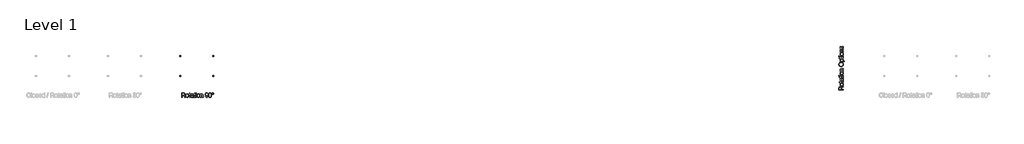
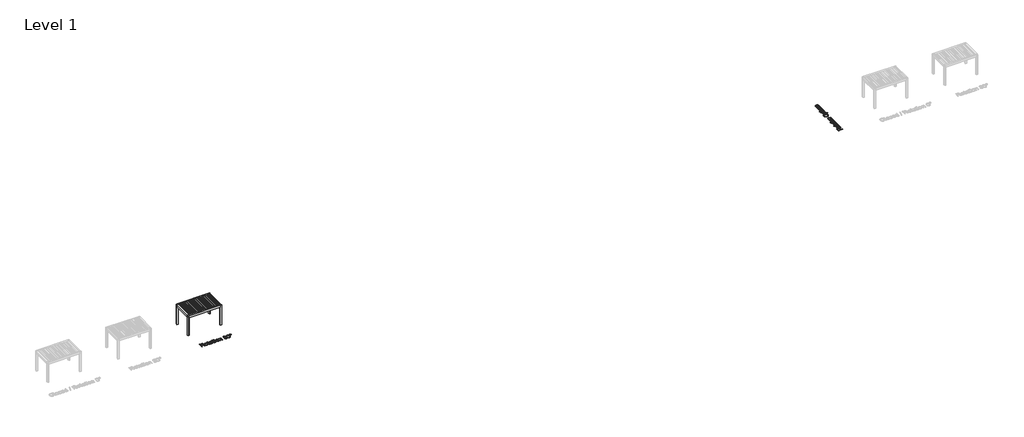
# One storey, part 50 of 69: 3 proxies.
"""IFC4 building model written with IfcOpenShell, lengths in millimetres."""

from ifc_helpers import new_model, si_unit, origin, origin_with_axes, place, context, project, spatial, polyline, outline, extrude, transform, mapped, element, save
from components import generic_models_b33c69de

model = new_model("IFC4")

# Units and contexts
model_context = context("Model", 3, world=origin())
ifc_project = project(units=[si_unit("LENGTHUNIT", "METRE", prefix="MILLI")], contexts=[model_context])

# Site, building, storey
site = spatial("IfcSite", under=ifc_project)
building = spatial("IfcBuilding", under=site)
storey = spatial("IfcBuildingStorey", under=building, Name="Level 1", Elevation=0.0)

# Proxies
placement = place(None, origin())
generic_models_shape = generic_models_b33c69de(model_context)
element("IfcBuildingElementProxy", 1, Name="Renson_Camargue_Freestanding_Patio covers : Renson_Camargue_Freestanding_Patio covers", ObjectType="Renson_Camargue_Freestanding_Patio covers : Renson_Camargue_Freestanding_Patio covers", at=placement, inside=storey, context=model_context, shape_type="MappedRepresentation", body=[
    mapped(generic_models_shape, transform((7503.165057, 67778.5861401, 0.0), x_axis=(1.0, 0.0, 0.0), y_axis=(0.0, 1.0, 0.0), z_axis=(0.0, 0.0, 1.0))),
])
element("IfcBuildingElementProxy", 2, Name="500mm Arial", ObjectType="500mm Arial", at=placement, inside=storey, context=model_context, shape_type="SweptSolid", body=[
    extrude(outline(polyline([(5745.311698, 64128.5861401), (5745.311698, 64630.8676909), (5961.7489385, 64630.8676909), (6019.920279, 64627.4801108), (6062.2420369, 64617.3173707), (6093.1747813, 64598.555389), (6117.1790815, 64569.370084), (6132.5841401, 64533.1796927), (6137.7191596, 64493.402452), (6135.5923418, 64467.6047271), (6129.2118884, 64443.9223237), (6118.5777995, 64422.3552417), (6103.690075, 64402.9034812), (6084.3571097, 64386.187843), (6060.3872985, 64372.8291281), (6031.7806413, 64362.8273364), (5998.5371381, 64356.1824678), (6019.2305003, 64342.6628045), (6034.2216916, 64329.3270822), (6085.1120343, 64264.7024784), (6168.8665018, 64128.5861401), (6095.9032394, 64128.5861401), (6030.5428716, 64232.6967448), (5983.3313489, 64301.6133052), (5965.7803121, 64321.7088592), (5950.1606557, 64334.1708618), (5920.3009004, 64346.1270266), (5883.8805829, 64348.3343186), (5808.0968919, 64348.3343186), (5808.0968919, 64128.5861401), (5745.311698, 64128.5861401)]), holes=[polyline([(5808.0968919, 64411.1195124), (5948.627814, 64411.1195124), (5988.9875346, 64413.3421328), (6020.3034894, 64420.009994), (6043.878594, 64431.56762), (6061.0157636, 64448.4595349), (6071.4544152, 64468.8923141), (6074.9339657, 64491.0725327), (6073.2746646, 64507.129049), (6068.2967614, 64521.6987088), (6060.000256, 64534.7815123), (6048.3851484, 64546.3774593), (6033.1831914, 64555.8734133), (6014.1261376, 64562.6562376), (5964.4467398, 64568.082497), (5808.0968919, 64568.082497), (5808.0968919, 64411.1195124)])]), origin_with_axes(), (0.0, 0.0, 1.0), 5.0),
    extrude(outline(polyline([(6224.0488011, 64313.0176471), (6227.4440453, 64360.788657), (6237.6297781, 64401.9531194), (6254.6059993, 64436.5110343), (6278.3727091, 64464.4624017), (6302.3003672, 64482.3276711), (6328.7112287, 64495.0885778), (6357.6052938, 64502.7451219), (6388.9825623, 64505.2973032), (6423.6209514, 64502.1894668), (6454.9407383, 64492.8659574), (6482.9419231, 64477.3267753), (6507.6245057, 64455.5719202), (6527.7698771, 64428.3371562), (6542.159428, 64396.3582474), (6550.7931586, 64359.6351936), (6553.6710688, 64318.167995), (6548.5820345, 64254.7390076), (6542.2207417, 64228.7036923), (6533.3149317, 64206.4544958), (6521.9757356, 64187.2364936), (6508.3142845, 64170.2947613), (6492.3305782, 64155.6292989), (6474.0246168, 64143.2401063), (6433.2970143, 64126.3635197), (6388.9825623, 64120.7379909), (6353.8383354, 64123.834331), (6322.2273086, 64133.1233514), (6294.1494817, 64148.605052), (6269.6048548, 64170.2794329), (6249.6740813, 64197.7786121), (6235.4378145, 64230.7347075), (6226.8960545, 64269.1477191), (6224.0488011, 64313.0176471)]), holes=[polyline([(6286.8339949, 64313.1402744), (6288.6504123, 64282.686543), (6294.0996644, 64256.3178345), (6303.1817511, 64234.0341491), (6315.8966726, 64215.8354867), (6331.3630448, 64201.6988546), (6348.6994838, 64191.6012602), (6367.9059896, 64185.5427036), (6388.9825623, 64183.5231847), (6409.951836, 64185.5541999), (6429.0816997, 64191.6472455), (6446.3721535, 64201.8023214), (6461.8231973, 64216.0194277), (6474.5381188, 64234.398199), (6483.6202055, 64257.0382701), (6489.0694576, 64283.939641), (6490.8858749, 64315.1023117), (6489.0579613, 64344.5903529), (6483.5742203, 64370.2692826), (6474.434652, 64392.1391007), (6461.6392563, 64410.1998074), (6446.130731, 64424.3364395), (6428.8517735, 64434.4340339), (6409.8023839, 64440.4925905), (6388.9825623, 64442.5121094), (6367.9059896, 64440.5002547), (6348.6994838, 64434.4646907), (6331.3630448, 64424.4054174), (6315.8966726, 64410.3224348), (6303.1817511, 64392.1774218), (6294.0996644, 64369.9320574), (6288.6504123, 64343.5863416), (6286.8339949, 64313.1402744)])]), origin_with_axes(), (0.0, 0.0, 1.0), 5.0),
    extrude(outline(polyline([(6757.7229488, 64180.9480108), (6765.571098, 64126.7467302), (6718.60483, 64120.7379909), (6688.4691632, 64123.3438217), (6665.9977046, 64131.1613141), (6650.1174652, 64143.2094494), (6639.7554557, 64158.5072091), (6634.0532847, 64184.7801149), (6632.1525611, 64229.7536888), (6632.1525611, 64434.6639601), (6585.0636657, 64434.6639601), (6585.0636657, 64497.449154), (6632.1525611, 64497.449154), (6632.1525611, 64587.0897335), (6694.9377549, 64624.0005603), (6694.9377549, 64497.449154), (6757.7229488, 64497.449154), (6757.7229488, 64434.6639601), (6694.9377549, 64434.6639601), (6694.9377549, 64231.5930988), (6698.2486929, 64199.2194832), (6708.9785844, 64187.7538277), (6730.3770538, 64183.5231847), (6757.7229488, 64180.9480108)])), origin_with_axes(), (0.0, 0.0, 1.0), 5.0),
    extrude(outline(polyline([(7055.9526195, 64175.6750355), (7025.9549085, 64149.9539527), (6995.0681493, 64133.1233514), (6962.5872348, 64123.834331), (6927.8070579, 64120.7379909), (6899.8518583, 64122.6003935), (6875.3378883, 64128.1876013), (6854.2651478, 64137.4996143), (6836.6336367, 64150.5364325), (6822.7116025, 64166.4703214), (6812.7672923, 64184.4735466), (6806.8007062, 64204.5461079), (6804.8118442, 64226.6880055), (6807.8162138, 64252.7156567), (6816.8293227, 64276.3520749), (6830.7321964, 64296.5855846), (6848.4058606, 64312.4045104), (6869.1758649, 64324.3606752), (6892.367759, 64333.0059021), (6946.691667, 64342.4482067), (7010.8870751, 64352.3810205), (7055.5847375, 64364.030617), (7055.9526195, 64378.0101329), (7051.6300061, 64406.0304782), (7038.6621658, 64424.3632643), (7025.5870265, 64432.303384), (7009.6608018, 64437.9748981), (6969.255096, 64442.5121094), (6931.8537598, 64439.4924113), (6905.7341382, 64430.4333172), (6887.9225182, 64413.679358), (6875.4451872, 64387.5750647), (6812.6599934, 64395.423214), (6823.5584975, 64429.7588669), (6839.8219474, 64456.7368798), (6862.9678562, 64477.3689284), (6894.5137373, 64492.666688), (6933.0953616, 64502.1396494), (6977.3484999, 64505.2973032), (7019.7928851, 64502.5075314), (7053.4387592, 64494.138216), (7078.8072885, 64481.5535861), (7096.419639, 64466.1178707), (7108.0998923, 64447.0339922), (7115.6721301, 64423.5048729), (7118.7378134, 64368.5678283), (7118.7378134, 64290.454218), (7121.926124, 64181.3772064), (7126.6472763, 64154.4145219), (7134.4341118, 64128.5861401), (7071.648918, 64128.5861401), (7061.5934768, 64150.4138052), (7055.9526195, 64175.6750355)]), holes=[polyline([(7055.9526195, 64301.2454232), (7013.7688174, 64290.7914432), (6954.6624435, 64281.9929321), (6900.6451039, 64271.8148636), (6886.588946, 64264.8557625), (6876.1809512, 64255.2601738), (6869.7430163, 64243.7638615), (6867.597038, 64231.1025895), (6872.272205, 64212.4325782), (6886.2977061, 64197.1348186), (6909.3669729, 64186.9260932), (6941.173437, 64183.5231847), (6974.8959533, 64187.2786468), (7004.6943949, 64198.5450329), (7028.8519792, 64215.1457079), (7045.6519237, 64234.9040367), (7053.1015341, 64255.2601738), (7055.5847375, 64283.4644601), (7055.9526195, 64301.2454232)])]), origin_with_axes(), (0.0, 0.0, 1.0), 5.0),
    extrude(outline(polyline([(7338.4859918, 64180.9480108), (7346.3341411, 64126.7467302), (7299.367873, 64120.7379909), (7269.2322062, 64123.3438217), (7246.7607477, 64131.1613141), (7230.8805082, 64143.2094494), (7220.5184987, 64158.5072091), (7214.8163278, 64184.7801149), (7212.9156041, 64229.7536888), (7212.9156041, 64434.6639601), (7165.8267088, 64434.6639601), (7165.8267088, 64497.449154), (7212.9156041, 64497.449154), (7212.9156041, 64587.0897335), (7275.700798, 64624.0005603), (7275.700798, 64497.449154), (7338.4859918, 64497.449154), (7338.4859918, 64434.6639601), (7275.700798, 64434.6639601), (7275.700798, 64231.5930988), (7279.0117359, 64199.2194832), (7289.7416275, 64187.7538277), (7311.1400968, 64183.5231847), (7338.4859918, 64180.9480108)])), origin_with_axes(), (0.0, 0.0, 1.0), 5.0),
    extrude(outline(polyline([(7401.2711857, 64568.082497), (7401.2711857, 64630.8676909), (7464.0563795, 64630.8676909), (7464.0563795, 64568.082497), (7401.2711857, 64568.082497)])), origin_with_axes(), (0.0, 0.0, 1.0), 5.0),
    extrude(outline(polyline([(7401.2711857, 64128.5861401), (7401.2711857, 64497.449154), (7464.0563795, 64497.449154), (7464.0563795, 64128.5861401), (7401.2711857, 64128.5861401)])), origin_with_axes(), (0.0, 0.0, 1.0), 5.0),
    extrude(outline(polyline([(7542.5378718, 64313.0176471), (7545.9331161, 64360.788657), (7556.1188488, 64401.9531194), (7573.09507, 64436.5110343), (7596.8617798, 64464.4624017), (7620.7894379, 64482.3276711), (7647.2002994, 64495.0885778), (7676.0943645, 64502.7451219), (7707.471633, 64505.2973032), (7742.1100221, 64502.1894668), (7773.429809, 64492.8659574), (7801.4309938, 64477.3267753), (7826.1135764, 64455.5719202), (7846.2589478, 64428.3371562), (7860.6484987, 64396.3582474), (7869.2822293, 64359.6351936), (7872.1601395, 64318.167995), (7867.0711052, 64254.7390076), (7860.7098124, 64228.7036923), (7851.8040024, 64206.4544958), (7840.4648063, 64187.2364936), (7826.8033552, 64170.2947613), (7810.8196489, 64155.6292989), (7792.5136875, 64143.2401063), (7751.786085, 64126.3635197), (7707.471633, 64120.7379909), (7672.3274061, 64123.834331), (7640.7163793, 64133.1233514), (7612.6385524, 64148.605052), (7588.0939256, 64170.2794329), (7568.163152, 64197.7786121), (7553.9268852, 64230.7347075), (7545.3851252, 64269.1477191), (7542.5378718, 64313.0176471)]), holes=[polyline([(7605.3230657, 64313.1402744), (7607.139483, 64282.686543), (7612.5887351, 64256.3178345), (7621.6708218, 64234.0341491), (7634.3857433, 64215.8354867), (7649.8521155, 64201.6988546), (7667.1885545, 64191.6012602), (7686.3950603, 64185.5427036), (7707.471633, 64183.5231847), (7728.4409067, 64185.5541999), (7747.5707705, 64191.6472455), (7764.8612242, 64201.8023214), (7780.312268, 64216.0194277), (7793.0271895, 64234.398199), (7802.1092762, 64257.0382701), (7807.5585283, 64283.939641), (7809.3749457, 64315.1023117), (7807.547032, 64344.5903529), (7802.063291, 64370.2692826), (7792.9237227, 64392.1391007), (7780.128327, 64410.1998074), (7764.6198017, 64424.3364395), (7747.3408442, 64434.4340339), (7728.2914547, 64440.4925905), (7707.471633, 64442.5121094), (7686.3950603, 64440.5002547), (7667.1885545, 64434.4646907), (7649.8521155, 64424.4054174), (7634.3857433, 64410.3224348), (7621.6708218, 64392.1774218), (7612.5887351, 64369.9320574), (7607.139483, 64343.5863416), (7605.3230657, 64313.1402744)])]), origin_with_axes(), (0.0, 0.0, 1.0), 5.0),
    extrude(outline(polyline([(7942.7934826, 64128.5861401), (7942.7934826, 64497.449154), (8005.5786764, 64497.449154), (8005.5786764, 64445.9456746), (8027.391013, 64471.9120121), (8053.5872768, 64490.4593961), (8084.1674676, 64501.5878264), (8119.1315856, 64505.2973032), (8150.0796584, 64502.308262), (8178.4219005, 64493.3411384), (8202.0583187, 64479.5149067), (8218.8889199, 64461.9485414), (8230.3085902, 64440.6880278), (8237.7122154, 64415.779351), (8241.0231533, 64355.0788218), (8241.0231533, 64128.5861401), (8178.2379595, 64128.5861401), (8178.2379595, 64346.6175359), (8176.4292063, 64379.083122), (8171.0029469, 64402.1677172), (8160.993491, 64418.7070786), (8145.4351482, 64431.5369632), (8125.4928784, 64439.7683228), (8102.3316411, 64442.5121094), (8083.2669232, 64440.9716035), (8065.55877, 64436.3500859), (8049.2071818, 64428.6475567), (8034.2121584, 64417.8640157), (8021.68501, 64402.7731897), (8012.7370469, 64382.1488053), (8007.368269, 64355.9908626), (8005.5786764, 64324.2993616), (8005.5786764, 64128.5861401), (7942.7934826, 64128.5861401)])), origin_with_axes(), (0.0, 0.0, 1.0), 5.0),
    extrude(outline(polyline([(8515.7083764, 64254.1565278), (8578.4935702, 64262.0046771), (8589.2234618, 64226.3661088), (8606.6978565, 64202.1012255), (8630.4875589, 64188.1676949), (8660.1633732, 64183.5231847), (8686.7888326, 64186.512226), (8710.9924022, 64195.4793496), (8731.1032846, 64209.443537), (8745.4506824, 64227.4237695), (8756.3185297, 64251.0601877), (8765.9907604, 64281.9929321), (8772.7965774, 64317.4935447), (8775.065183, 64354.8335672), (8774.697301, 64367.0963003), (8752.946278, 64340.547483), (8724.4814087, 64319.5168956), (8691.3567007, 64305.8132913), (8655.6261619, 64301.2454232), (8625.8008956, 64304.035195), (8598.3745264, 64312.4045104), (8573.3470544, 64326.3533694), (8550.7184796, 64345.881772), (8531.9679942, 64369.9703784), (8518.5747903, 64397.5998491), (8510.5388679, 64428.770184), (8507.8602272, 64463.4813831), (8510.6691595, 64499.3498776), (8519.0959564, 64531.5395522), (8533.140618, 64560.0504068), (8552.8031442, 64584.8824415), (8576.6963134, 64605.0009881), (8603.4329038, 64619.3713785), (8633.0129155, 64627.9936128), (8665.4363484, 64630.8676909), (8689.3755028, 64629.2275503), (8712.2646607, 64624.3071286), (8734.1038221, 64616.1064258), (8754.8929869, 64604.6254419), (8773.9385444, 64590.1094315), (8790.5468836, 64572.8036493), (8804.7180046, 64552.7080953), (8816.4519074, 64529.8227695), (8825.6527894, 64502.8294281), (8832.224848, 64470.4098273), (8837.4824948, 64389.2918474), (8832.2401764, 64303.2841026), (8825.6872784, 64267.6033812), (8816.5132211, 64236.8047604), (8804.7524936, 64210.1371478), (8790.4395847, 64186.8494511), (8773.5744945, 64166.9416702), (8754.1572229, 64150.4138052), (8732.5786447, 64137.4306364), (8709.2296343, 64128.1569445), (8684.1101918, 64122.5927293), (8657.2203172, 64120.7379909), (8629.0236951, 64122.9261224), (8603.5402027, 64129.4905167), (8580.7698401, 64140.431174), (8560.7126071, 64155.7480941), (8543.8743416, 64175.0274099), (8530.7608814, 64197.8552541), (8521.3722263, 64224.2316268), (8515.7083764, 64254.1565278)]), holes=[polyline([(8774.697301, 64464.9529111), (8773.003511, 64487.4550264), (8767.9221409, 64507.5045952), (8759.4531908, 64525.1016173), (8747.5966607, 64540.2460927), (8732.9350303, 64552.4245196), (8716.0507796, 64561.123396), (8696.9439085, 64566.3427218), (8675.614417, 64568.082497), (8653.6028109, 64566.2085981), (8633.6758695, 64560.5869014), (8615.8335927, 64551.2174068), (8600.0759806, 64538.1001144), (8587.2001108, 64522.001445), (8578.0030609, 64503.6878195), (8572.484831, 64483.1592377), (8570.645421, 64460.4156998), (8572.3851963, 64440.0174096), (8577.6045221, 64421.6194777), (8586.3033984, 64405.2219042), (8598.4818253, 64390.824689), (8613.633965, 64379.1022825), (8631.2539797, 64370.729135), (8651.3418695, 64365.7052465), (8673.8976343, 64364.030617), (8694.9320538, 64365.7052465), (8714.0121002, 64370.729135), (8731.1377735, 64379.1022825), (8746.3090737, 64390.824689), (8758.7289231, 64405.5054799), (8767.6002442, 64422.7537805), (8772.9230368, 64442.5695909), (8774.697301, 64464.9529111)])]), origin_with_axes(), (0.0, 0.0, 1.0), 5.0),
    extrude(outline(polyline([(8892.4195395, 64375.6802136), (8897.0333928, 64456.0777579), (8910.8749529, 64520.196524), (8921.221634, 64546.3966198), (8933.8062639, 64569.0175304), (8948.6288426, 64588.0592558), (8965.6893702, 64603.5217959), (8985.045328, 64615.485625), (9006.7541979, 64624.0312171), (9030.8159796, 64629.1585724), (9057.2306733, 64630.8676909), (9095.9195964, 64626.8209889), (9130.5618177, 64614.6808831), (9159.5325248, 64594.9225543), (9181.2069057, 64568.0211834), (9197.5776545, 64534.2066967), (9210.6374653, 64493.7090203), (9219.1907217, 64442.2821831), (9222.0418071, 64375.6802136), (9217.473939, 64295.7425217), (9203.7703347, 64231.7770398), (9193.5041278, 64205.5654476), (9180.9769794, 64182.9100481), (9166.1888896, 64163.8108412), (9149.1398584, 64148.2678269), (9129.7609079, 64136.2235236), (9107.9830602, 64127.6204499), (9083.8063153, 64122.4586057), (9057.2306733, 64120.7379909), (9022.6497657, 64123.7270321), (8991.9929328, 64132.6941557), (8965.2601745, 64147.6393618), (8942.4514908, 64168.5626503), (8920.5625121, 64206.3855179), (8904.9275273, 64253.5127343), (8895.5465364, 64309.9442995), (8892.4195395, 64375.6802136)]), holes=[polyline([(8955.2047333, 64375.8028409), (8957.0441433, 64321.222182), (8962.5623732, 64277.0418536), (8971.7594231, 64243.2618558), (8984.6352929, 64219.8821886), (9000.208964, 64203.9751244), (9017.4994178, 64192.6129357), (9036.5066542, 64185.7956225), (9057.2306733, 64183.5231847), (9077.9546924, 64185.8032867), (9096.9619288, 64192.6435925), (9114.2523825, 64204.0441023), (9129.8260537, 64220.0048159), (9142.7019235, 64243.4228042), (9151.8989734, 64277.1951378), (9157.4172033, 64321.3218167), (9159.2566133, 64375.8028409), (9157.478517, 64428.9387966), (9152.144228, 64472.3412078), (9143.2537465, 64506.0100746), (9130.8070723, 64529.9453969), (9115.4939843, 64546.6303782), (9098.0042611, 64558.548222), (9078.3379028, 64565.6989283), (9056.4949093, 64568.082497), (9035.8781892, 64565.982504), (9017.1928495, 64559.6825248), (9000.4388903, 64549.1825595), (8985.6163116, 64534.4826081), (8972.3112461, 64508.4243002), (8962.8076279, 64473.2915696), (8957.1054569, 64429.0844165), (8955.2047333, 64375.8028409)])]), origin_with_axes(), (0.0, 0.0, 1.0), 5.0),
    extrude(outline(polyline([(9292.6751502, 64544.6606767), (9294.4034292, 64563.4916363), (9299.588266, 64580.8663964), (9308.2296608, 64596.7849569), (9320.3276135, 64611.2473178), (9334.847456, 64623.2647963), (9350.7545202, 64631.8487095), (9368.0488061, 64636.9990575), (9386.7303136, 64638.7158401), (9405.6685722, 64636.9990575), (9423.1199743, 64631.8487095), (9439.0845201, 64623.2647963), (9453.5622094, 64611.2473178), (9465.5796879, 64596.7849569), (9474.1636012, 64580.8663964), (9479.3139491, 64563.4916363), (9481.0307317, 64544.6606767), (9479.3024528, 64525.8718702), (9474.1176159, 64508.5009422), (9465.4762211, 64492.5478928), (9453.3782684, 64478.0127219), (9438.8430975, 64465.9147692), (9422.8900481, 64457.2733744), (9405.5191201, 64452.0885375), (9386.7303136, 64450.3602586), (9368.0488061, 64452.0770412), (9350.7545202, 64457.2273892), (9334.847456, 64465.8113024), (9320.3276135, 64477.8287809), (9308.2296608, 64492.3064702), (9299.588266, 64508.271016), (9294.4034292, 64525.7224181), (9292.6751502, 64544.6606767)]), holes=[polyline([(9331.9158964, 64544.5380493), (9335.9472699, 64523.4154915), (9348.0413905, 64505.6651852), (9365.837682, 64493.6170498), (9386.9755683, 64489.6010047), (9407.9295136, 64493.6170498), (9425.6644915, 64505.6651852), (9437.7586121, 64523.4154915), (9441.7899856, 64544.5380493), (9437.7586121, 64565.6606072), (9425.6644915, 64583.4109135), (9407.9295136, 64595.4590488), (9386.9755683, 64599.475094), (9365.837682, 64595.4590488), (9348.0413905, 64583.4109135), (9335.9472699, 64565.6606072), (9331.9158964, 64544.5380493)])]), origin_with_axes(), (0.0, 0.0, 1.0), 5.0),
])
element("IfcBuildingElementProxy", 3, Name="500mm Arial", ObjectType="500mm Arial", at=placement, inside=storey, context=model_context, shape_type="SweptSolid", body=[
    extrude(outline(polyline([(82842.6220496, 64966.2932218), (82340.3404988, 64966.2932218), (82340.3404988, 65182.7304623), (82343.7280789, 65240.9018028), (82353.890819, 65283.2235606), (82372.6528007, 65314.156305), (82401.8381057, 65338.1606052), (82438.028497, 65353.5656638), (82477.8057377, 65358.7006833), (82503.6034626, 65356.5738655), (82527.285866, 65350.1934122), (82548.852948, 65339.5593232), (82568.3047085, 65324.6715987), (82585.0203467, 65305.3386335), (82598.3790616, 65281.3688222), (82608.3808534, 65252.762165), (82615.0257219, 65219.5186618), (82628.5453852, 65240.212024), (82641.8811075, 65255.2032153), (82706.5057114, 65306.093558), (82842.6220496, 65389.8480256), (82842.6220496, 65316.8847632), (82738.5114449, 65251.5243954), (82669.5948845, 65204.3128727), (82649.4993305, 65186.7618358), (82637.0373279, 65171.1421794), (82625.0811631, 65141.2824241), (82622.8738711, 65104.8621066), (82622.8738711, 65029.0784156), (82842.6220496, 65029.0784156), (82842.6220496, 64966.2932218)]), holes=[polyline([(82560.0886773, 65029.0784156), (82560.0886773, 65169.6093378), (82557.8660569, 65209.9690583), (82551.1981957, 65241.2850132), (82539.6405697, 65264.8601177), (82522.7486548, 65281.9972873), (82502.3158756, 65292.4359389), (82480.135657, 65295.9154895), (82464.0791407, 65294.2561884), (82449.5094809, 65289.2782851), (82436.4266774, 65280.9817797), (82424.8307304, 65269.3666721), (82415.3347764, 65254.1647151), (82408.5519521, 65235.1076613), (82403.1256927, 65185.4282636), (82403.1256927, 65029.0784156), (82560.0886773, 65029.0784156)])]), origin_with_axes(), (0.0, 0.0, 1.0), 5.0),
    extrude(outline(polyline([(82658.1905427, 65445.0303248), (82610.4195327, 65448.4255691), (82569.2550703, 65458.6113018), (82534.6971554, 65475.5875231), (82506.745788, 65499.3542328), (82488.8805186, 65523.2818909), (82476.1196119, 65549.6927525), (82468.4630679, 65578.5868175), (82465.9108865, 65609.964086), (82469.0187229, 65644.6024751), (82478.3422323, 65675.9222621), (82493.8814145, 65703.9234468), (82515.6362695, 65728.6060294), (82542.8710335, 65748.7514008), (82574.8499423, 65763.1409517), (82611.5729961, 65771.7746823), (82653.0401947, 65774.6525925), (82716.4691821, 65769.5635582), (82742.5044974, 65763.2022654), (82764.7536939, 65754.2964554), (82783.9716961, 65742.9572594), (82800.9134284, 65729.2958082), (82815.5788908, 65713.3121019), (82827.9680834, 65695.0061406), (82844.84467, 65654.278538), (82850.4701988, 65609.964086), (82847.3738587, 65574.8198591), (82838.0848383, 65543.2088323), (82822.6031377, 65515.1310054), (82800.9287568, 65490.5863786), (82773.4295776, 65470.6556051), (82740.4734822, 65456.4193383), (82702.0604706, 65447.8775782), (82658.1905427, 65445.0303248)]), holes=[polyline([(82658.0679153, 65507.8155187), (82688.5216467, 65509.631936), (82714.8903552, 65515.0811881), (82737.1740406, 65524.1632748), (82755.372703, 65536.8781963), (82769.5093351, 65552.3445685), (82779.6069295, 65569.6810075), (82785.6654861, 65588.8875134), (82787.685005, 65609.964086), (82785.6539898, 65630.9333597), (82779.5609442, 65650.0632235), (82769.4058683, 65667.3536772), (82755.1887621, 65682.804721), (82736.8099907, 65695.5196425), (82714.1699196, 65704.6017293), (82687.2685487, 65710.0509813), (82656.105878, 65711.8673987), (82626.6178368, 65710.039485), (82600.9389072, 65704.555744), (82579.069089, 65695.4161757), (82561.0083823, 65682.62078), (82546.8717502, 65667.1122547), (82536.7741558, 65649.8332972), (82530.7155992, 65630.7839077), (82528.6960804, 65609.964086), (82530.707935, 65588.8875134), (82536.743499, 65569.6810075), (82546.8027723, 65552.3445685), (82560.8857549, 65536.8781963), (82579.0307679, 65524.1632748), (82601.2761323, 65515.0811881), (82627.6218481, 65509.631936), (82658.0679153, 65507.8155187)])]), origin_with_axes(), (0.0, 0.0, 1.0), 5.0),
    extrude(outline(polyline([(82790.2601789, 65978.7044725), (82844.4614595, 65986.5526217), (82850.4701988, 65939.5863537), (82847.864368, 65909.4506869), (82840.0468756, 65886.9792284), (82827.9987403, 65871.0989889), (82812.7009806, 65860.7369794), (82786.4280748, 65855.0348085), (82741.4545009, 65853.1340848), (82536.5442296, 65853.1340848), (82536.5442296, 65806.0451894), (82473.7590357, 65806.0451894), (82473.7590357, 65853.1340848), (82384.1184563, 65853.1340848), (82347.2076294, 65915.9192787), (82473.7590357, 65915.9192787), (82473.7590357, 65978.7044725), (82536.5442296, 65978.7044725), (82536.5442296, 65915.9192787), (82739.6150909, 65915.9192787), (82771.9887065, 65919.2302166), (82783.454362, 65929.9601081), (82787.685005, 65951.3585775), (82790.2601789, 65978.7044725)])), origin_with_axes(), (0.0, 0.0, 1.0), 5.0),
    extrude(outline(polyline([(82795.5331542, 66276.9341433), (82821.254237, 66246.9364322), (82838.0848383, 66216.0496731), (82847.3738587, 66183.5687586), (82850.4701988, 66148.7885816), (82848.6077962, 66120.8333821), (82843.0205884, 66096.319412), (82833.7085754, 66075.2466715), (82820.6717572, 66057.6151605), (82804.7378683, 66043.6931262), (82786.7346431, 66033.748816), (82766.6620818, 66027.7822299), (82744.5201842, 66025.7933679), (82718.492533, 66028.7977375), (82694.8561148, 66037.8108464), (82674.6226051, 66051.7137201), (82658.8036793, 66069.3873843), (82646.8475145, 66090.1573886), (82638.2022876, 66113.3492827), (82628.759983, 66167.6731907), (82618.8271692, 66231.8685988), (82607.1775727, 66276.5662613), (82593.1980568, 66276.9341433), (82565.1777115, 66272.6115298), (82546.8449254, 66259.6436895), (82538.9048057, 66246.5685502), (82533.2332916, 66230.6423255), (82528.6960804, 66190.2366197), (82531.7157784, 66152.8352836), (82540.7748725, 66126.7156619), (82557.5288317, 66108.904042), (82583.633125, 66096.426711), (82575.7849757, 66033.6415171), (82541.4493229, 66044.5400212), (82514.4713099, 66060.8034711), (82493.8392613, 66083.94938), (82478.5415017, 66115.495261), (82469.0685403, 66154.0768853), (82465.9108865, 66198.3300236), (82468.7006583, 66240.7744088), (82477.0699737, 66274.420283), (82489.6546036, 66299.7888122), (82505.090319, 66317.4011627), (82524.1741975, 66329.0814161), (82547.7033168, 66336.6536538), (82602.6403614, 66339.7193371), (82680.7539717, 66339.7193371), (82789.8309833, 66342.9076477), (82816.7936678, 66347.6288), (82842.6220496, 66355.4156356), (82842.6220496, 66292.6304417), (82820.7943845, 66282.5750005), (82795.5331542, 66276.9341433)]), holes=[polyline([(82669.9627665, 66276.9341433), (82680.4167465, 66234.7503411), (82689.2152576, 66175.6439673), (82699.3933261, 66121.6266276), (82706.3524272, 66107.5704697), (82715.9480159, 66097.1624749), (82727.4443282, 66090.72454), (82740.1056002, 66088.5785617), (82758.7756115, 66093.2537287), (82774.0733711, 66107.2792298), (82784.2820965, 66130.3484966), (82787.685005, 66162.1549608), (82783.9295429, 66195.877477), (82772.6631568, 66225.6759186), (82756.0624818, 66249.8335029), (82736.304153, 66266.6334474), (82715.9480159, 66274.0830578), (82687.7437296, 66276.5662613), (82669.9627665, 66276.9341433)])]), origin_with_axes(), (0.0, 0.0, 1.0), 5.0),
    extrude(outline(polyline([(82790.2601789, 66559.4675156), (82844.4614595, 66567.3156648), (82850.4701988, 66520.3493967), (82847.864368, 66490.21373), (82840.0468756, 66467.7422714), (82827.9987403, 66451.862032), (82812.7009806, 66441.5000224), (82786.4280748, 66435.7978515), (82741.4545009, 66433.8971279), (82536.5442296, 66433.8971279), (82536.5442296, 66386.8082325), (82473.7590357, 66386.8082325), (82473.7590357, 66433.8971279), (82384.1184563, 66433.8971279), (82347.2076294, 66496.6823217), (82473.7590357, 66496.6823217), (82473.7590357, 66559.4675156), (82536.5442296, 66559.4675156), (82536.5442296, 66496.6823217), (82739.6150909, 66496.6823217), (82771.9887065, 66499.9932597), (82783.454362, 66510.7231512), (82787.685005, 66532.1216206), (82790.2601789, 66559.4675156)])), origin_with_axes(), (0.0, 0.0, 1.0), 5.0),
    extrude(outline(polyline([(82403.1256927, 66622.2527094), (82340.3404988, 66622.2527094), (82340.3404988, 66685.0379032), (82403.1256927, 66685.0379032), (82403.1256927, 66622.2527094)])), origin_with_axes(), (0.0, 0.0, 1.0), 5.0),
    extrude(outline(polyline([(82842.6220496, 66622.2527094), (82473.7590357, 66622.2527094), (82473.7590357, 66685.0379032), (82842.6220496, 66685.0379032), (82842.6220496, 66622.2527094)])), origin_with_axes(), (0.0, 0.0, 1.0), 5.0),
    extrude(outline(polyline([(82658.1905427, 66763.5193955), (82610.4195327, 66766.9146398), (82569.2550703, 66777.1003725), (82534.6971554, 66794.0765938), (82506.745788, 66817.8433035), (82488.8805186, 66841.7709616), (82476.1196119, 66868.1818232), (82468.4630679, 66897.0758882), (82465.9108865, 66928.4531567), (82469.0187229, 66963.0915458), (82478.3422323, 66994.4113328), (82493.8814145, 67022.4125175), (82515.6362695, 67047.0951002), (82542.8710335, 67067.2404715), (82574.8499423, 67081.6300225), (82611.5729961, 67090.263753), (82653.0401947, 67093.1416632), (82716.4691821, 67088.052629), (82742.5044974, 67081.6913361), (82764.7536939, 67072.7855262), (82783.9716961, 67061.4463301), (82800.9134284, 67047.7848789), (82815.5788908, 67031.8011726), (82827.9680834, 67013.4952113), (82844.84467, 66972.7676087), (82850.4701988, 66928.4531567), (82847.3738587, 66893.3089299), (82838.0848383, 66861.697903), (82822.6031377, 66833.6200761), (82800.9287568, 66809.0754493), (82773.4295776, 66789.1446758), (82740.4734822, 66774.908409), (82702.0604706, 66766.3666489), (82658.1905427, 66763.5193955)]), holes=[polyline([(82658.0679153, 66826.3045894), (82688.5216467, 66828.1210067), (82714.8903552, 66833.5702588), (82737.1740406, 66842.6523455), (82755.372703, 66855.367267), (82769.5093351, 66870.8336392), (82779.6069295, 66888.1700782), (82785.6654861, 66907.3765841), (82787.685005, 66928.4531567), (82785.6539898, 66949.4224304), (82779.5609442, 66968.5522942), (82769.4058683, 66985.842748), (82755.1887621, 67001.2937918), (82736.8099907, 67014.0087132), (82714.1699196, 67023.0908), (82687.2685487, 67028.540052), (82656.105878, 67030.3564694), (82626.6178368, 67028.5285557), (82600.9389072, 67023.0448147), (82579.069089, 67013.9052464), (82561.0083823, 67001.1098508), (82546.8717502, 66985.6013254), (82536.7741558, 66968.3223679), (82530.7155992, 66949.2729784), (82528.6960804, 66928.4531567), (82530.707935, 66907.3765841), (82536.743499, 66888.1700782), (82546.8027723, 66870.8336392), (82560.8857549, 66855.367267), (82579.0307679, 66842.6523455), (82601.2761323, 66833.5702588), (82627.6218481, 66828.1210067), (82658.0679153, 66826.3045894)])]), origin_with_axes(), (0.0, 0.0, 1.0), 5.0),
    extrude(outline(polyline([(82842.6220496, 67163.7750063), (82473.7590357, 67163.7750063), (82473.7590357, 67226.5602001), (82525.2625151, 67226.5602001), (82499.2961776, 67248.3725368), (82480.7487936, 67274.5688005), (82469.6203633, 67305.1489914), (82465.9108865, 67340.1131093), (82468.8999277, 67371.0611822), (82477.8670514, 67399.4034242), (82491.693283, 67423.0398424), (82509.2596483, 67439.8704437), (82530.5201619, 67451.2901139), (82555.4288387, 67458.6937391), (82616.1293679, 67462.0046771), (82842.6220496, 67462.0046771), (82842.6220496, 67399.2194832), (82624.5906538, 67399.2194832), (82592.1250677, 67397.4107301), (82569.0404725, 67391.9844706), (82552.5011111, 67381.9750147), (82539.6712265, 67366.416672), (82531.4398669, 67346.4744022), (82528.6960804, 67323.3131649), (82530.2365862, 67304.2484469), (82534.8581038, 67286.5402938), (82542.560633, 67270.1887055), (82553.344174, 67255.1936821), (82568.435, 67242.6665337), (82589.0593844, 67233.7185706), (82615.2173271, 67228.3497928), (82646.9088281, 67226.5602001), (82842.6220496, 67226.5602001), (82842.6220496, 67163.7750063)])), origin_with_axes(), (0.0, 0.0, 1.0), 5.0),
    extrude(outline(polyline([(82598.1031501, 67728.8417509), (82539.1883814, 67733.0264086), (82487.0334444, 67745.5803817), (82441.638339, 67766.5036701), (82403.0030653, 67795.796274), (82372.1546272, 67831.7030896), (82350.1200285, 67872.4690132), (82336.8992693, 67918.0940448), (82332.4923496, 67968.5781844), (82334.5616858, 68002.3696785), (82340.7696945, 68034.4597184), (82351.1163756, 68064.848304), (82365.6017292, 68093.5354354), (82383.7888953, 68119.7163708), (82405.2410141, 68142.5863681), (82429.9580857, 68162.1454275), (82457.9401099, 68178.393549), (82488.5509576, 68191.1621199), (82521.1544995, 68200.2825277), (82555.7507354, 68205.7547724), (82592.3396655, 68207.5788539), (82629.4114407, 68205.6589698), (82664.4751934, 68199.8993173), (82697.5309235, 68190.2998965), (82728.5786311, 68176.8607073), (82756.7982458, 68159.8998145), (82781.3696974, 68139.7352827), (82802.2929859, 68116.3671118), (82819.5681112, 68089.7953018), (82833.0877745, 68061.0660173), (82842.7446769, 68031.2254225), (82848.5388183, 68000.2735176), (82850.4701988, 67968.2103024), (82848.3357168, 67933.8286643), (82841.9322708, 67901.317093), (82831.2598609, 67870.6755884), (82816.3184869, 67841.9041507), (82797.6867967, 67815.7538722), (82775.9434379, 67792.9758454), (82751.0884106, 67773.5700701), (82723.1217148, 67757.5365465), (82693.1661569, 67744.9825734), (82662.3445435, 67736.0154498), (82630.6568746, 67730.6351756), (82598.1031501, 67728.8417509)]), holes=[polyline([(82598.7162868, 67791.6269447), (82640.3406017, 67794.765438), (82677.2897496, 67804.1809178), (82709.5637304, 67819.8733842), (82737.1625443, 67841.8428371), (82759.2661208, 67868.5487707), (82775.0543898, 67898.4506791), (82784.5273512, 67931.5485623), (82787.685005, 67967.8424204), (82784.4966943, 68004.7570794), (82774.9317625, 68038.2458372), (82758.9902093, 68068.308694), (82736.672035, 68094.9456498), (82708.4907413, 68116.7541543), (82674.9598303, 68132.3316575), (82636.0793019, 68141.6781595), (82591.8491562, 68144.7936601), (82536.2683181, 68139.4593712), (82488.2290609, 68123.4565044), (82467.3402613, 68111.5578211), (82448.9423295, 68097.198927), (82433.0352653, 68080.379822), (82419.6190688, 68061.1005062), (82408.9696514, 68039.9587878), (82401.3629248, 68017.552475), (82396.7988888, 67993.8815679), (82395.2775434, 67968.9460664), (82398.2091031, 67933.9129706), (82407.003782, 67901.4090635), (82421.6615803, 67871.4343451), (82442.1824978, 67843.9888154), (82469.5552175, 67821.080497), (82504.7684223, 67804.7174124), (82547.822112, 67794.8995616), (82598.7162868, 67791.6269447)])]), origin_with_axes(), (0.0, 0.0, 1.0), 5.0),
    extrude(outline(polyline([(82983.8887357, 68286.0603462), (82473.7590357, 68286.0603462), (82473.7590357, 68348.8455401), (82535.3179563, 68348.8455401), (82504.9523632, 68369.3243045), (82483.262654, 68392.2556155), (82470.2488284, 68418.9883738), (82465.9108865, 68450.8714801), (82467.4283997, 68472.768123), (82471.9809394, 68493.3311937), (82479.5685056, 68512.5606922), (82490.1910982, 68530.4566184), (82503.5728058, 68546.6280977), (82519.4377168, 68560.6842556), (82558.6171493, 68582.450607), (82604.8783102, 68595.6023884), (82655.370114, 68599.9863155), (82709.0655569, 68595.0352369), (82757.0894857, 68580.1820014), (82778.3653277, 68569.16087), (82797.0046822, 68555.9017897), (82813.007549, 68540.4047607), (82826.3739281, 68522.6697828), (82844.4461311, 68483.9655312), (82850.4701988, 68443.2685855), (82846.4388253, 68414.4051773), (82834.3447047, 68388.6381092), (82816.0885607, 68366.5805179), (82793.5711169, 68348.8455401), (82983.8887357, 68348.8455401), (82983.8887357, 68286.0603462)]), holes=[polyline([(82661.1335986, 68348.8455401), (82691.3918927, 68350.5431622), (82717.4195439, 68355.6360286), (82739.2165521, 68364.1241392), (82756.7829174, 68376.0074941), (82770.3025807, 68390.3127387), (82779.9594831, 68406.0665188), (82785.7536245, 68423.2688341), (82787.685005, 68441.9196849), (82785.6846466, 68460.8387829), (82779.6835716, 68478.3553308), (82769.6817798, 68494.4693286), (82755.6792714, 68509.1807763), (82737.4767768, 68521.4396774), (82714.8750267, 68530.1960353), (82687.8740211, 68535.44985), (82656.47376, 68537.2011216), (82626.476049, 68535.4920032), (82600.4943831, 68530.3646479), (82578.5287623, 68521.8190557), (82560.5791866, 68509.8552266), (82546.6303276, 68495.515493), (82536.6668569, 68479.8421872), (82530.6887745, 68462.8353091), (82528.6960804, 68444.4948588), (82530.8152339, 68426.2118901), (82537.1726947, 68409.0095747), (82547.7684625, 68392.8879127), (82562.6025376, 68377.846904), (82581.4756504, 68365.1588073), (82604.1885314, 68356.0958811), (82630.7411809, 68350.6581253), (82661.1335986, 68348.8455401)])]), origin_with_axes(), (0.0, 0.0, 1.0), 5.0),
    extrude(outline(polyline([(82790.2601789, 68804.0381955), (82844.4614595, 68811.8863447), (82850.4701988, 68764.9200766), (82847.864368, 68734.7844099), (82840.0468756, 68712.3129513), (82827.9987403, 68696.4327119), (82812.7009806, 68686.0707023), (82786.4280748, 68680.3685314), (82741.4545009, 68678.4678078), (82536.5442296, 68678.4678078), (82536.5442296, 68631.3789124), (82473.7590357, 68631.3789124), (82473.7590357, 68678.4678078), (82384.1184563, 68678.4678078), (82347.2076294, 68741.2530016), (82473.7590357, 68741.2530016), (82473.7590357, 68804.0381955), (82536.5442296, 68804.0381955), (82536.5442296, 68741.2530016), (82739.6150909, 68741.2530016), (82771.9887065, 68744.5639396), (82783.454362, 68755.2938311), (82787.685005, 68776.6923005), (82790.2601789, 68804.0381955)])), origin_with_axes(), (0.0, 0.0, 1.0), 5.0),
    extrude(outline(polyline([(82842.6220496, 68866.8233893), (82473.7590357, 68866.8233893), (82473.7590357, 68929.6085831), (82842.6220496, 68929.6085831), (82842.6220496, 68866.8233893)])), origin_with_axes(), (0.0, 0.0, 1.0), 5.0),
    extrude(outline(polyline([(82403.1256927, 68866.8233893), (82340.3404988, 68866.8233893), (82340.3404988, 68929.6085831), (82403.1256927, 68929.6085831), (82403.1256927, 68866.8233893)])), origin_with_axes(), (0.0, 0.0, 1.0), 5.0),
    extrude(outline(polyline([(82658.1905427, 69008.0900754), (82610.4195327, 69011.4853197), (82569.2550703, 69021.6710524), (82534.6971554, 69038.6472737), (82506.745788, 69062.4139834), (82488.8805186, 69086.3416415), (82476.1196119, 69112.7525031), (82468.4630679, 69141.6465681), (82465.9108865, 69173.0238366), (82469.0187229, 69207.6622257), (82478.3422323, 69238.9820127), (82493.8814145, 69266.9831975), (82515.6362695, 69291.6657801), (82542.8710335, 69311.8111514), (82574.8499423, 69326.2007024), (82611.5729961, 69334.8344329), (82653.0401947, 69337.7123431), (82716.4691821, 69332.6233089), (82742.5044974, 69326.262016), (82764.7536939, 69317.3562061), (82783.9716961, 69306.01701), (82800.9134284, 69292.3555588), (82815.5788908, 69276.3718525), (82827.9680834, 69258.0658912), (82844.84467, 69217.3382886), (82850.4701988, 69173.0238366), (82847.3738587, 69137.8796098), (82838.0848383, 69106.2685829), (82822.6031377, 69078.1907561), (82800.9287568, 69053.6461292), (82773.4295776, 69033.7153557), (82740.4734822, 69019.4790889), (82702.0604706, 69010.9373288), (82658.1905427, 69008.0900754)]), holes=[polyline([(82658.0679153, 69070.8752693), (82688.5216467, 69072.6916866), (82714.8903552, 69078.1409387), (82737.1740406, 69087.2230255), (82755.372703, 69099.9379469), (82769.5093351, 69115.4043191), (82779.6069295, 69132.7407581), (82785.6654861, 69151.947264), (82787.685005, 69173.0238366), (82785.6539898, 69193.9931103), (82779.5609442, 69213.1229741), (82769.4058683, 69230.4134279), (82755.1887621, 69245.8644717), (82736.8099907, 69258.5793931), (82714.1699196, 69267.6614799), (82687.2685487, 69273.1107319), (82656.105878, 69274.9271493), (82626.6178368, 69273.0992356), (82600.9389072, 69267.6154946), (82579.069089, 69258.4759263), (82561.0083823, 69245.6805307), (82546.8717502, 69230.1720053), (82536.7741558, 69212.8930478), (82530.7155992, 69193.8436583), (82528.6960804, 69173.0238366), (82530.707935, 69151.947264), (82536.743499, 69132.7407581), (82546.8027723, 69115.4043191), (82560.8857549, 69099.9379469), (82579.0307679, 69087.2230255), (82601.2761323, 69078.1409387), (82627.6218481, 69072.6916866), (82658.0679153, 69070.8752693)])]), origin_with_axes(), (0.0, 0.0, 1.0), 5.0),
    extrude(outline(polyline([(82842.6220496, 69408.3456862), (82473.7590357, 69408.3456862), (82473.7590357, 69471.13088), (82525.2625151, 69471.13088), (82499.2961776, 69492.9432167), (82480.7487936, 69519.1394804), (82469.6203633, 69549.7196713), (82465.9108865, 69584.6837892), (82468.8999277, 69615.6318621), (82477.8670514, 69643.9741041), (82491.693283, 69667.6105223), (82509.2596483, 69684.4411236), (82530.5201619, 69695.8607938), (82555.4288387, 69703.264419), (82616.1293679, 69706.575357), (82842.6220496, 69706.575357), (82842.6220496, 69643.7901631), (82624.5906538, 69643.7901631), (82592.1250677, 69641.98141), (82569.0404725, 69636.5551505), (82552.5011111, 69626.5456946), (82539.6712265, 69610.9873519), (82531.4398669, 69591.0450821), (82528.6960804, 69567.8838448), (82530.2365862, 69548.8191268), (82534.8581038, 69531.1109737), (82542.560633, 69514.7593854), (82553.344174, 69499.764362), (82568.435, 69487.2372136), (82589.0593844, 69478.2892505), (82615.2173271, 69472.9204727), (82646.9088281, 69471.13088), (82842.6220496, 69471.13088), (82842.6220496, 69408.3456862)])), origin_with_axes(), (0.0, 0.0, 1.0), 5.0),
    extrude(outline(polyline([(82732.7479603, 69769.3605508), (82724.8998111, 69832.1457446), (82751.7551968, 69842.0479017), (82771.4981972, 69861.2084223), (82783.638303, 69889.7499337), (82787.685005, 69927.7950634), (82783.9755282, 69965.3803406), (82772.8470978, 69991.8065306), (82756.7216037, 70007.4415153), (82738.0209356, 70012.6531769), (82722.0180688, 70007.4108585), (82709.8166493, 69991.6839032), (82691.9130589, 69927.0592994), (82675.3430407, 69869.7616787), (82661.1949123, 69832.5136266), (82645.7591969, 69808.5859685), (82625.3264178, 69791.2495295), (82601.1994902, 69780.7189074), (82574.6813298, 69777.2087), (82550.3551328, 69780.0291287), (82527.8990027, 69788.4904146), (82508.2019875, 69801.8261369), (82492.1531355, 69819.2698748), (82482.051709, 69836.6063138), (82473.5750947, 69859.1850713), (82467.8269386, 69885.2893645), (82465.9108865, 69913.2024109), (82468.9918982, 69954.0679692), (82478.2349333, 69989.5992386), (82492.7356153, 70018.1714069), (82511.5895676, 70038.1596619), (82536.191676, 70051.4034138), (82567.9368265, 70059.7420723), (82575.7849757, 69996.9568785), (82556.0266469, 69989.0320872), (82541.1427545, 69973.3511171), (82531.8077489, 69949.7606842), (82528.6960804, 69918.1075042), (82531.6697931, 69882.0550687), (82540.5909315, 69858.0201116), (82553.4668014, 69844.5004483), (82568.3047085, 69839.9938939), (82577.9616109, 69841.8639607), (82586.5761809, 69847.4741611), (82594.271046, 69857.0697498), (82600.4330694, 69870.8959815), (82613.7994486, 69924.9746348), (82643.3526355, 70017.1290746), (82657.4854355, 70041.4705999), (82676.8298971, 70059.9260133), (82701.4473339, 70071.5602814), (82731.3990597, 70075.4383708), (82762.362461, 70070.8858311), (82791.4864522, 70057.228212), (82816.4870995, 70034.9866797), (82835.0804687, 70004.6824004), (82846.6227663, 69968.0781419), (82850.4701988, 69926.9366721), (82848.6154604, 69893.145178), (82843.0512452, 69863.6303121), (82833.7775533, 69838.3920744), (82820.7943845, 69817.4304648), (82804.1630527, 69800.3086236), (82783.9448713, 69786.5896909), (82760.1398406, 69776.2736666), (82732.7479603, 69769.3605508)])), origin_with_axes(), (0.0, 0.0, 1.0), 5.0),
])

save(model, "model.ifc")
